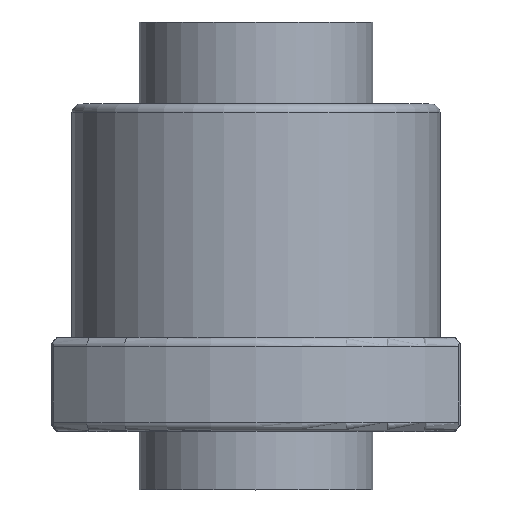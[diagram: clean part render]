
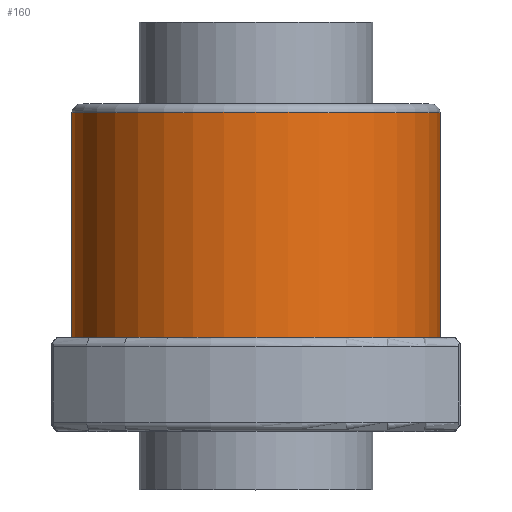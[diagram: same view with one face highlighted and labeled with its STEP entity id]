
A CAD part, top view. The second image highlights one B-rep face of the part: STEP entity #160.
In plain terms, the highlighted cylindrical face has radius 31.5 mm (diameter 63 mm), a full revolution.
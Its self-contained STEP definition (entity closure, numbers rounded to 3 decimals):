
#160=ADVANCED_FACE('',(#232,#233),#197,.T.);
#197=CYLINDRICAL_SURFACE('',#729,31.5);
#232=FACE_BOUND('',#298,.T.);
#233=FACE_BOUND('',#299,.T.);
#298=EDGE_LOOP('',(#390));
#299=EDGE_LOOP('',(#391));
#390=ORIENTED_EDGE('',*,*,#609,.T.);
#391=ORIENTED_EDGE('',*,*,#577,.F.);
#514=VERTEX_POINT('',#973);
#546=VERTEX_POINT('',#1042);
#577=EDGE_CURVE('',#514,#514,#656,.T.);
#609=EDGE_CURVE('',#546,#546,#680,.T.);
#656=CIRCLE('',#699,31.5);
#680=CIRCLE('',#728,31.5);
#699=AXIS2_PLACEMENT_3D('',#972,#790,#791);
#728=AXIS2_PLACEMENT_3D('',#1041,#856,#857);
#729=AXIS2_PLACEMENT_3D('',#1043,#858,#859);
#790=DIRECTION('',(0.,-1.,0.));
#791=DIRECTION('',(0.,0.,-1.));
#856=DIRECTION('',(0.,-1.,0.));
#857=DIRECTION('',(0.,0.,-1.));
#858=DIRECTION('',(0.,-1.,0.));
#859=DIRECTION('',(0.,0.,-1.));
#972=CARTESIAN_POINT('',(0.,16.,0.));
#973=CARTESIAN_POINT('',(0.,16.,-31.5));
#1041=CARTESIAN_POINT('',(0.,54.5,0.));
#1042=CARTESIAN_POINT('',(0.,54.5,-31.5));
#1043=CARTESIAN_POINT('',(0.,56.,0.));
